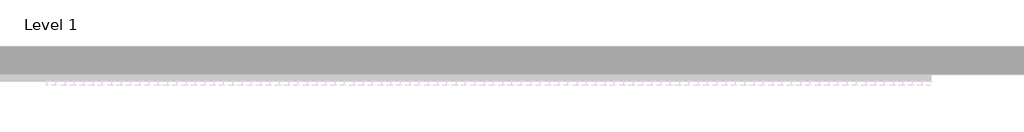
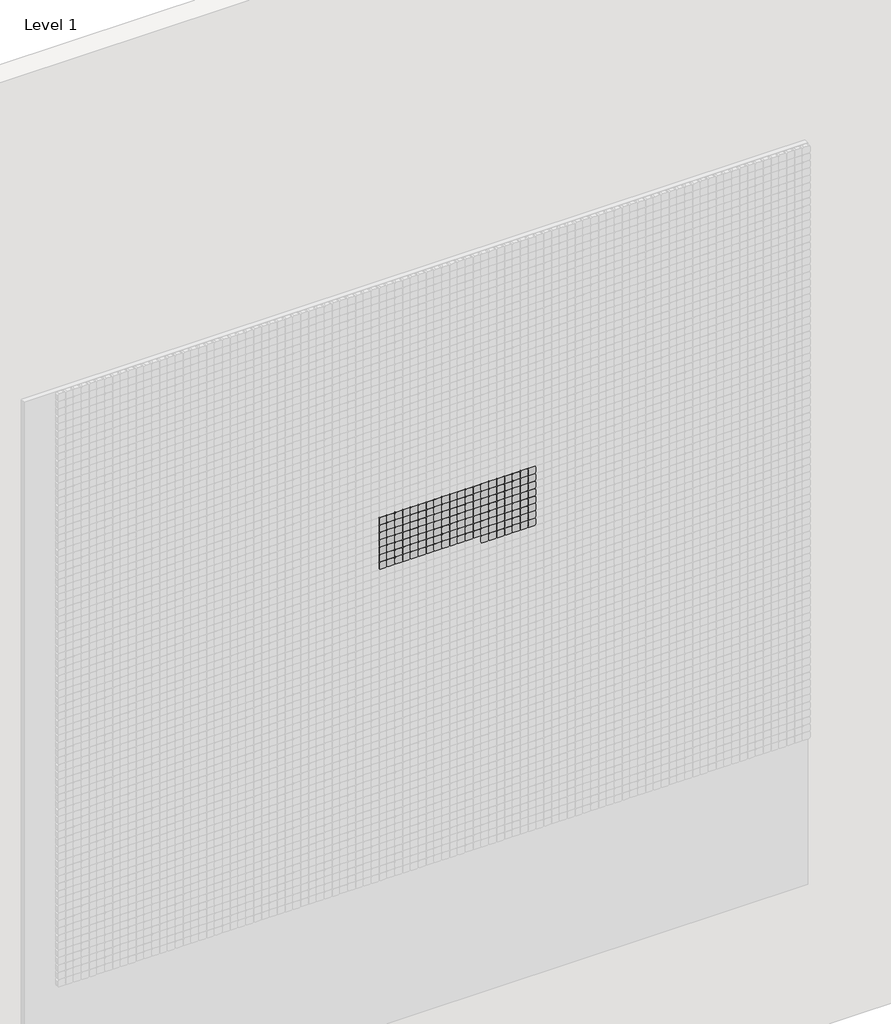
# One storey, part 39 of 71: 147 proxies.
"""IFC4 building model written with IfcOpenShell, lengths in millimetres."""

from ifc_helpers import new_model, si_unit, origin, place, context, project, spatial, transform, mapped, element, save
from components import generic_models_afde289c

model = new_model("IFC4")

# Units and contexts
model_context = context("Model", 3, world=origin())
ifc_project = project(units=[si_unit("LENGTHUNIT", "METRE", prefix="MILLI")], contexts=[model_context])

# Site, building, storey
site = spatial("IfcSite", under=ifc_project)
building = spatial("IfcBuilding", under=site)
storey = spatial("IfcBuildingStorey", under=building, Name="Level 1", Elevation=0.0)

# Proxies
placement = place(None, origin())
generic_models_shape = generic_models_afde289c(model_context)
element("IfcBuildingElementProxy", 1, Name="Pixel_M : Pixel_M", ObjectType="Pixel_M : Pixel_M", at=placement, inside=storey, context=model_context, shape_type="MappedRepresentation", body=[
    mapped(generic_models_shape, transform((7962.4280941, -75.0, 4416.3566215), x_axis=(1.0, 0.0, 0.0), y_axis=(0.0, 0.0, 1.0), z_axis=(0.0, -1.0, 0.0))),
])
element("IfcBuildingElementProxy", 2, Name="Pixel_M : Pixel_M", ObjectType="Pixel_M : Pixel_M", at=placement, inside=storey, context=model_context, shape_type="MappedRepresentation", body=[
    mapped(generic_models_shape, transform((7912.4280941, -75.0, 4416.3566215), x_axis=(1.0, 0.0, 0.0), y_axis=(0.0, 0.0, 1.0), z_axis=(0.0, -1.0, 0.0))),
])
element("IfcBuildingElementProxy", 3, Name="Pixel_M : Pixel_M", ObjectType="Pixel_M : Pixel_M", at=placement, inside=storey, context=model_context, shape_type="MappedRepresentation", body=[
    mapped(generic_models_shape, transform((7862.4280941, -75.0, 4416.3566215), x_axis=(1.0, 0.0, 0.0), y_axis=(0.0, 0.0, 1.0), z_axis=(0.0, -1.0, 0.0))),
])
element("IfcBuildingElementProxy", 4, Name="Pixel_M : Pixel_M", ObjectType="Pixel_M : Pixel_M", at=placement, inside=storey, context=model_context, shape_type="MappedRepresentation", body=[
    mapped(generic_models_shape, transform((7812.4280941, -75.0, 4416.3566215), x_axis=(1.0, 0.0, 0.0), y_axis=(0.0, 0.0, 1.0), z_axis=(0.0, -1.0, 0.0))),
])
element("IfcBuildingElementProxy", 5, Name="Pixel_M : Pixel_M", ObjectType="Pixel_M : Pixel_M", at=placement, inside=storey, context=model_context, shape_type="MappedRepresentation", body=[
    mapped(generic_models_shape, transform((7762.4280941, -75.0, 4416.3566215), x_axis=(1.0, 0.0, 0.0), y_axis=(0.0, 0.0, 1.0), z_axis=(0.0, -1.0, 0.0))),
])
element("IfcBuildingElementProxy", 6, Name="Pixel_M : Pixel_M", ObjectType="Pixel_M : Pixel_M", at=placement, inside=storey, context=model_context, shape_type="MappedRepresentation", body=[
    mapped(generic_models_shape, transform((7712.4280941, -75.0, 4416.3566215), x_axis=(1.0, 0.0, 0.0), y_axis=(0.0, 0.0, 1.0), z_axis=(0.0, -1.0, 0.0))),
])
element("IfcBuildingElementProxy", 7, Name="Pixel_M : Pixel_M", ObjectType="Pixel_M : Pixel_M", at=placement, inside=storey, context=model_context, shape_type="MappedRepresentation", body=[
    mapped(generic_models_shape, transform((7662.4280941, -75.0, 4416.3566215), x_axis=(1.0, 0.0, 0.0), y_axis=(0.0, 0.0, 1.0), z_axis=(0.0, -1.0, 0.0))),
])
element("IfcBuildingElementProxy", 8, Name="Pixel_M : Pixel_M", ObjectType="Pixel_M : Pixel_M", at=placement, inside=storey, context=model_context, shape_type="MappedRepresentation", body=[
    mapped(generic_models_shape, transform((7612.4280941, -75.0, 4416.3566215), x_axis=(1.0, 0.0, 0.0), y_axis=(0.0, 0.0, 1.0), z_axis=(0.0, -1.0, 0.0))),
])
element("IfcBuildingElementProxy", 9, Name="Pixel_M : Pixel_M", ObjectType="Pixel_M : Pixel_M", at=placement, inside=storey, context=model_context, shape_type="MappedRepresentation", body=[
    mapped(generic_models_shape, transform((7562.4280941, -75.0, 4416.3566215), x_axis=(1.0, 0.0, 0.0), y_axis=(0.0, 0.0, 1.0), z_axis=(0.0, -1.0, 0.0))),
])
element("IfcBuildingElementProxy", 10, Name="Pixel_M : Pixel_M", ObjectType="Pixel_M : Pixel_M", at=placement, inside=storey, context=model_context, shape_type="MappedRepresentation", body=[
    mapped(generic_models_shape, transform((7512.4280941, -75.0, 4416.3566215), x_axis=(1.0, 0.0, 0.0), y_axis=(0.0, 0.0, 1.0), z_axis=(0.0, -1.0, 0.0))),
])
element("IfcBuildingElementProxy", 11, Name="Pixel_M : Pixel_M", ObjectType="Pixel_M : Pixel_M", at=placement, inside=storey, context=model_context, shape_type="MappedRepresentation", body=[
    mapped(generic_models_shape, transform((7462.4280941, -75.0, 4416.3566215), x_axis=(1.0, 0.0, 0.0), y_axis=(0.0, 0.0, 1.0), z_axis=(0.0, -1.0, 0.0))),
])
element("IfcBuildingElementProxy", 12, Name="Pixel_M : Pixel_M", ObjectType="Pixel_M : Pixel_M", at=placement, inside=storey, context=model_context, shape_type="MappedRepresentation", body=[
    mapped(generic_models_shape, transform((7412.4280941, -75.0, 4416.3566215), x_axis=(1.0, 0.0, 0.0), y_axis=(0.0, 0.0, 1.0), z_axis=(0.0, -1.0, 0.0))),
])
element("IfcBuildingElementProxy", 13, Name="Pixel_M : Pixel_M", ObjectType="Pixel_M : Pixel_M", at=placement, inside=storey, context=model_context, shape_type="MappedRepresentation", body=[
    mapped(generic_models_shape, transform((7362.4280941, -75.0, 4416.3566215), x_axis=(1.0, 0.0, 0.0), y_axis=(0.0, 0.0, 1.0), z_axis=(0.0, -1.0, 0.0))),
])
element("IfcBuildingElementProxy", 14, Name="Pixel_M : Pixel_M", ObjectType="Pixel_M : Pixel_M", at=placement, inside=storey, context=model_context, shape_type="MappedRepresentation", body=[
    mapped(generic_models_shape, transform((7312.4280941, -75.0, 4416.3566215), x_axis=(1.0, 0.0, 0.0), y_axis=(0.0, 0.0, 1.0), z_axis=(0.0, -1.0, 0.0))),
])
element("IfcBuildingElementProxy", 15, Name="Pixel_M : Pixel_M", ObjectType="Pixel_M : Pixel_M", at=placement, inside=storey, context=model_context, shape_type="MappedRepresentation", body=[
    mapped(generic_models_shape, transform((7262.4280941, -75.0, 4416.3566215), x_axis=(1.0, 0.0, 0.0), y_axis=(0.0, 0.0, 1.0), z_axis=(0.0, -1.0, 0.0))),
])
element("IfcBuildingElementProxy", 16, Name="Pixel_M : Pixel_M", ObjectType="Pixel_M : Pixel_M", at=placement, inside=storey, context=model_context, shape_type="MappedRepresentation", body=[
    mapped(generic_models_shape, transform((7212.4280941, -75.0, 4416.3566215), x_axis=(1.0, 0.0, 0.0), y_axis=(0.0, 0.0, 1.0), z_axis=(0.0, -1.0, 0.0))),
])
element("IfcBuildingElementProxy", 17, Name="Pixel_M : Pixel_M", ObjectType="Pixel_M : Pixel_M", at=placement, inside=storey, context=model_context, shape_type="MappedRepresentation", body=[
    mapped(generic_models_shape, transform((7162.4280941, -75.0, 4416.3566215), x_axis=(1.0, 0.0, 0.0), y_axis=(0.0, 0.0, 1.0), z_axis=(0.0, -1.0, 0.0))),
])
element("IfcBuildingElementProxy", 18, Name="Pixel_M : Pixel_M", ObjectType="Pixel_M : Pixel_M", at=placement, inside=storey, context=model_context, shape_type="MappedRepresentation", body=[
    mapped(generic_models_shape, transform((7112.4280941, -75.0, 4416.3566215), x_axis=(1.0, 0.0, 0.0), y_axis=(0.0, 0.0, 1.0), z_axis=(0.0, -1.0, 0.0))),
])
element("IfcBuildingElementProxy", 19, Name="Pixel_M : Pixel_M", ObjectType="Pixel_M : Pixel_M", at=placement, inside=storey, context=model_context, shape_type="MappedRepresentation", body=[
    mapped(generic_models_shape, transform((7062.4280941, -75.0, 4416.3566215), x_axis=(1.0, 0.0, 0.0), y_axis=(0.0, 0.0, 1.0), z_axis=(0.0, -1.0, 0.0))),
])
element("IfcBuildingElementProxy", 20, Name="Pixel_M : Pixel_M", ObjectType="Pixel_M : Pixel_M", at=placement, inside=storey, context=model_context, shape_type="MappedRepresentation", body=[
    mapped(generic_models_shape, transform((7012.4280941, -75.0, 4416.3566215), x_axis=(1.0, 0.0, 0.0), y_axis=(0.0, 0.0, 1.0), z_axis=(0.0, -1.0, 0.0))),
])
element("IfcBuildingElementProxy", 21, Name="Pixel_M : Pixel_M", ObjectType="Pixel_M : Pixel_M", at=placement, inside=storey, context=model_context, shape_type="MappedRepresentation", body=[
    mapped(generic_models_shape, transform((7962.4280941, -75.0, 4366.3566215), x_axis=(1.0, 0.0, 0.0), y_axis=(0.0, 0.0, 1.0), z_axis=(0.0, -1.0, 0.0))),
])
element("IfcBuildingElementProxy", 22, Name="Pixel_M : Pixel_M", ObjectType="Pixel_M : Pixel_M", at=placement, inside=storey, context=model_context, shape_type="MappedRepresentation", body=[
    mapped(generic_models_shape, transform((7912.4280941, -75.0, 4366.3566215), x_axis=(1.0, 0.0, 0.0), y_axis=(0.0, 0.0, 1.0), z_axis=(0.0, -1.0, 0.0))),
])
element("IfcBuildingElementProxy", 23, Name="Pixel_M : Pixel_M", ObjectType="Pixel_M : Pixel_M", at=placement, inside=storey, context=model_context, shape_type="MappedRepresentation", body=[
    mapped(generic_models_shape, transform((7862.4280941, -75.0, 4366.3566215), x_axis=(1.0, 0.0, 0.0), y_axis=(0.0, 0.0, 1.0), z_axis=(0.0, -1.0, 0.0))),
])
element("IfcBuildingElementProxy", 24, Name="Pixel_M : Pixel_M", ObjectType="Pixel_M : Pixel_M", at=placement, inside=storey, context=model_context, shape_type="MappedRepresentation", body=[
    mapped(generic_models_shape, transform((7812.4280941, -75.0, 4366.3566215), x_axis=(1.0, 0.0, 0.0), y_axis=(0.0, 0.0, 1.0), z_axis=(0.0, -1.0, 0.0))),
])
element("IfcBuildingElementProxy", 25, Name="Pixel_M : Pixel_M", ObjectType="Pixel_M : Pixel_M", at=placement, inside=storey, context=model_context, shape_type="MappedRepresentation", body=[
    mapped(generic_models_shape, transform((7762.4280941, -75.0, 4366.3566215), x_axis=(1.0, 0.0, 0.0), y_axis=(0.0, 0.0, 1.0), z_axis=(0.0, -1.0, 0.0))),
])
element("IfcBuildingElementProxy", 26, Name="Pixel_M : Pixel_M", ObjectType="Pixel_M : Pixel_M", at=placement, inside=storey, context=model_context, shape_type="MappedRepresentation", body=[
    mapped(generic_models_shape, transform((7712.4280941, -75.0, 4366.3566215), x_axis=(1.0, 0.0, 0.0), y_axis=(0.0, 0.0, 1.0), z_axis=(0.0, -1.0, 0.0))),
])
element("IfcBuildingElementProxy", 27, Name="Pixel_M : Pixel_M", ObjectType="Pixel_M : Pixel_M", at=placement, inside=storey, context=model_context, shape_type="MappedRepresentation", body=[
    mapped(generic_models_shape, transform((7662.4280941, -75.0, 4366.3566215), x_axis=(1.0, 0.0, 0.0), y_axis=(0.0, 0.0, 1.0), z_axis=(0.0, -1.0, 0.0))),
])
element("IfcBuildingElementProxy", 28, Name="Pixel_M : Pixel_M", ObjectType="Pixel_M : Pixel_M", at=placement, inside=storey, context=model_context, shape_type="MappedRepresentation", body=[
    mapped(generic_models_shape, transform((7612.4280941, -75.0, 4366.3566215), x_axis=(1.0, 0.0, 0.0), y_axis=(0.0, 0.0, 1.0), z_axis=(0.0, -1.0, 0.0))),
])
element("IfcBuildingElementProxy", 29, Name="Pixel_M : Pixel_M", ObjectType="Pixel_M : Pixel_M", at=placement, inside=storey, context=model_context, shape_type="MappedRepresentation", body=[
    mapped(generic_models_shape, transform((7562.4280941, -75.0, 4366.3566215), x_axis=(1.0, 0.0, 0.0), y_axis=(0.0, 0.0, 1.0), z_axis=(0.0, -1.0, 0.0))),
])
element("IfcBuildingElementProxy", 30, Name="Pixel_M : Pixel_M", ObjectType="Pixel_M : Pixel_M", at=placement, inside=storey, context=model_context, shape_type="MappedRepresentation", body=[
    mapped(generic_models_shape, transform((7512.4280941, -75.0, 4366.3566215), x_axis=(1.0, 0.0, 0.0), y_axis=(0.0, 0.0, 1.0), z_axis=(0.0, -1.0, 0.0))),
])
element("IfcBuildingElementProxy", 31, Name="Pixel_M : Pixel_M", ObjectType="Pixel_M : Pixel_M", at=placement, inside=storey, context=model_context, shape_type="MappedRepresentation", body=[
    mapped(generic_models_shape, transform((7462.4280941, -75.0, 4366.3566215), x_axis=(1.0, 0.0, 0.0), y_axis=(0.0, 0.0, 1.0), z_axis=(0.0, -1.0, 0.0))),
])
element("IfcBuildingElementProxy", 32, Name="Pixel_M : Pixel_M", ObjectType="Pixel_M : Pixel_M", at=placement, inside=storey, context=model_context, shape_type="MappedRepresentation", body=[
    mapped(generic_models_shape, transform((7412.4280941, -75.0, 4366.3566215), x_axis=(1.0, 0.0, 0.0), y_axis=(0.0, 0.0, 1.0), z_axis=(0.0, -1.0, 0.0))),
])
element("IfcBuildingElementProxy", 33, Name="Pixel_M : Pixel_M", ObjectType="Pixel_M : Pixel_M", at=placement, inside=storey, context=model_context, shape_type="MappedRepresentation", body=[
    mapped(generic_models_shape, transform((7362.4280941, -75.0, 4366.3566215), x_axis=(1.0, 0.0, 0.0), y_axis=(0.0, 0.0, 1.0), z_axis=(0.0, -1.0, 0.0))),
])
element("IfcBuildingElementProxy", 34, Name="Pixel_M : Pixel_M", ObjectType="Pixel_M : Pixel_M", at=placement, inside=storey, context=model_context, shape_type="MappedRepresentation", body=[
    mapped(generic_models_shape, transform((7312.4280941, -75.0, 4366.3566215), x_axis=(1.0, 0.0, 0.0), y_axis=(0.0, 0.0, 1.0), z_axis=(0.0, -1.0, 0.0))),
])
element("IfcBuildingElementProxy", 35, Name="Pixel_M : Pixel_M", ObjectType="Pixel_M : Pixel_M", at=placement, inside=storey, context=model_context, shape_type="MappedRepresentation", body=[
    mapped(generic_models_shape, transform((7262.4280941, -75.0, 4366.3566215), x_axis=(1.0, 0.0, 0.0), y_axis=(0.0, 0.0, 1.0), z_axis=(0.0, -1.0, 0.0))),
])
element("IfcBuildingElementProxy", 36, Name="Pixel_M : Pixel_M", ObjectType="Pixel_M : Pixel_M", at=placement, inside=storey, context=model_context, shape_type="MappedRepresentation", body=[
    mapped(generic_models_shape, transform((7212.4280941, -75.0, 4366.3566215), x_axis=(1.0, 0.0, 0.0), y_axis=(0.0, 0.0, 1.0), z_axis=(0.0, -1.0, 0.0))),
])
element("IfcBuildingElementProxy", 37, Name="Pixel_M : Pixel_M", ObjectType="Pixel_M : Pixel_M", at=placement, inside=storey, context=model_context, shape_type="MappedRepresentation", body=[
    mapped(generic_models_shape, transform((7162.4280941, -75.0, 4366.3566215), x_axis=(1.0, 0.0, 0.0), y_axis=(0.0, 0.0, 1.0), z_axis=(0.0, -1.0, 0.0))),
])
element("IfcBuildingElementProxy", 38, Name="Pixel_M : Pixel_M", ObjectType="Pixel_M : Pixel_M", at=placement, inside=storey, context=model_context, shape_type="MappedRepresentation", body=[
    mapped(generic_models_shape, transform((7112.4280941, -75.0, 4366.3566215), x_axis=(1.0, 0.0, 0.0), y_axis=(0.0, 0.0, 1.0), z_axis=(0.0, -1.0, 0.0))),
])
element("IfcBuildingElementProxy", 39, Name="Pixel_M : Pixel_M", ObjectType="Pixel_M : Pixel_M", at=placement, inside=storey, context=model_context, shape_type="MappedRepresentation", body=[
    mapped(generic_models_shape, transform((7062.4280941, -75.0, 4366.3566215), x_axis=(1.0, 0.0, 0.0), y_axis=(0.0, 0.0, 1.0), z_axis=(0.0, -1.0, 0.0))),
])
element("IfcBuildingElementProxy", 40, Name="Pixel_M : Pixel_M", ObjectType="Pixel_M : Pixel_M", at=placement, inside=storey, context=model_context, shape_type="MappedRepresentation", body=[
    mapped(generic_models_shape, transform((7012.4280941, -75.0, 4366.3566215), x_axis=(1.0, 0.0, 0.0), y_axis=(0.0, 0.0, 1.0), z_axis=(0.0, -1.0, 0.0))),
])
element("IfcBuildingElementProxy", 41, Name="Pixel_M : Pixel_M", ObjectType="Pixel_M : Pixel_M", at=placement, inside=storey, context=model_context, shape_type="MappedRepresentation", body=[
    mapped(generic_models_shape, transform((7962.4280941, -75.0, 4316.3566215), x_axis=(1.0, 0.0, 0.0), y_axis=(0.0, 0.0, 1.0), z_axis=(0.0, -1.0, 0.0))),
])
element("IfcBuildingElementProxy", 42, Name="Pixel_M : Pixel_M", ObjectType="Pixel_M : Pixel_M", at=placement, inside=storey, context=model_context, shape_type="MappedRepresentation", body=[
    mapped(generic_models_shape, transform((7912.4280941, -75.0, 4316.3566215), x_axis=(1.0, 0.0, 0.0), y_axis=(0.0, 0.0, 1.0), z_axis=(0.0, -1.0, 0.0))),
])
element("IfcBuildingElementProxy", 43, Name="Pixel_M : Pixel_M", ObjectType="Pixel_M : Pixel_M", at=placement, inside=storey, context=model_context, shape_type="MappedRepresentation", body=[
    mapped(generic_models_shape, transform((7862.4280941, -75.0, 4316.3566215), x_axis=(1.0, 0.0, 0.0), y_axis=(0.0, 0.0, 1.0), z_axis=(0.0, -1.0, 0.0))),
])
element("IfcBuildingElementProxy", 44, Name="Pixel_M : Pixel_M", ObjectType="Pixel_M : Pixel_M", at=placement, inside=storey, context=model_context, shape_type="MappedRepresentation", body=[
    mapped(generic_models_shape, transform((7812.4280941, -75.0, 4316.3566215), x_axis=(1.0, 0.0, 0.0), y_axis=(0.0, 0.0, 1.0), z_axis=(0.0, -1.0, 0.0))),
])
element("IfcBuildingElementProxy", 45, Name="Pixel_M : Pixel_M", ObjectType="Pixel_M : Pixel_M", at=placement, inside=storey, context=model_context, shape_type="MappedRepresentation", body=[
    mapped(generic_models_shape, transform((7762.4280941, -75.0, 4316.3566215), x_axis=(1.0, 0.0, 0.0), y_axis=(0.0, 0.0, 1.0), z_axis=(0.0, -1.0, 0.0))),
])
element("IfcBuildingElementProxy", 46, Name="Pixel_M : Pixel_M", ObjectType="Pixel_M : Pixel_M", at=placement, inside=storey, context=model_context, shape_type="MappedRepresentation", body=[
    mapped(generic_models_shape, transform((7712.4280941, -75.0, 4316.3566215), x_axis=(1.0, 0.0, 0.0), y_axis=(0.0, 0.0, 1.0), z_axis=(0.0, -1.0, 0.0))),
])
element("IfcBuildingElementProxy", 47, Name="Pixel_M : Pixel_M", ObjectType="Pixel_M : Pixel_M", at=placement, inside=storey, context=model_context, shape_type="MappedRepresentation", body=[
    mapped(generic_models_shape, transform((7662.4280941, -75.0, 4316.3566215), x_axis=(1.0, 0.0, 0.0), y_axis=(0.0, 0.0, 1.0), z_axis=(0.0, -1.0, 0.0))),
])
element("IfcBuildingElementProxy", 48, Name="Pixel_M : Pixel_M", ObjectType="Pixel_M : Pixel_M", at=placement, inside=storey, context=model_context, shape_type="MappedRepresentation", body=[
    mapped(generic_models_shape, transform((7612.4280941, -75.0, 4316.3566215), x_axis=(1.0, 0.0, 0.0), y_axis=(0.0, 0.0, 1.0), z_axis=(0.0, -1.0, 0.0))),
])
element("IfcBuildingElementProxy", 49, Name="Pixel_M : Pixel_M", ObjectType="Pixel_M : Pixel_M", at=placement, inside=storey, context=model_context, shape_type="MappedRepresentation", body=[
    mapped(generic_models_shape, transform((7562.4280941, -75.0, 4316.3566215), x_axis=(1.0, 0.0, 0.0), y_axis=(0.0, 0.0, 1.0), z_axis=(0.0, -1.0, 0.0))),
])
element("IfcBuildingElementProxy", 50, Name="Pixel_M : Pixel_M", ObjectType="Pixel_M : Pixel_M", at=placement, inside=storey, context=model_context, shape_type="MappedRepresentation", body=[
    mapped(generic_models_shape, transform((7512.4280941, -75.0, 4316.3566215), x_axis=(1.0, 0.0, 0.0), y_axis=(0.0, 0.0, 1.0), z_axis=(0.0, -1.0, 0.0))),
])
element("IfcBuildingElementProxy", 51, Name="Pixel_M : Pixel_M", ObjectType="Pixel_M : Pixel_M", at=placement, inside=storey, context=model_context, shape_type="MappedRepresentation", body=[
    mapped(generic_models_shape, transform((7462.4280941, -75.0, 4316.3566215), x_axis=(1.0, 0.0, 0.0), y_axis=(0.0, 0.0, 1.0), z_axis=(0.0, -1.0, 0.0))),
])
element("IfcBuildingElementProxy", 52, Name="Pixel_M : Pixel_M", ObjectType="Pixel_M : Pixel_M", at=placement, inside=storey, context=model_context, shape_type="MappedRepresentation", body=[
    mapped(generic_models_shape, transform((7412.4280941, -75.0, 4316.3566215), x_axis=(1.0, 0.0, 0.0), y_axis=(0.0, 0.0, 1.0), z_axis=(0.0, -1.0, 0.0))),
])
element("IfcBuildingElementProxy", 53, Name="Pixel_M : Pixel_M", ObjectType="Pixel_M : Pixel_M", at=placement, inside=storey, context=model_context, shape_type="MappedRepresentation", body=[
    mapped(generic_models_shape, transform((7362.4280941, -75.0, 4316.3566215), x_axis=(1.0, 0.0, 0.0), y_axis=(0.0, 0.0, 1.0), z_axis=(0.0, -1.0, 0.0))),
])
element("IfcBuildingElementProxy", 54, Name="Pixel_M : Pixel_M", ObjectType="Pixel_M : Pixel_M", at=placement, inside=storey, context=model_context, shape_type="MappedRepresentation", body=[
    mapped(generic_models_shape, transform((7312.4280941, -75.0, 4316.3566215), x_axis=(1.0, 0.0, 0.0), y_axis=(0.0, 0.0, 1.0), z_axis=(0.0, -1.0, 0.0))),
])
element("IfcBuildingElementProxy", 55, Name="Pixel_M : Pixel_M", ObjectType="Pixel_M : Pixel_M", at=placement, inside=storey, context=model_context, shape_type="MappedRepresentation", body=[
    mapped(generic_models_shape, transform((7262.4280941, -75.0, 4316.3566215), x_axis=(1.0, 0.0, 0.0), y_axis=(0.0, 0.0, 1.0), z_axis=(0.0, -1.0, 0.0))),
])
element("IfcBuildingElementProxy", 56, Name="Pixel_M : Pixel_M", ObjectType="Pixel_M : Pixel_M", at=placement, inside=storey, context=model_context, shape_type="MappedRepresentation", body=[
    mapped(generic_models_shape, transform((7212.4280941, -75.0, 4316.3566215), x_axis=(1.0, 0.0, 0.0), y_axis=(0.0, 0.0, 1.0), z_axis=(0.0, -1.0, 0.0))),
])
element("IfcBuildingElementProxy", 57, Name="Pixel_M : Pixel_M", ObjectType="Pixel_M : Pixel_M", at=placement, inside=storey, context=model_context, shape_type="MappedRepresentation", body=[
    mapped(generic_models_shape, transform((7162.4280941, -75.0, 4316.3566215), x_axis=(1.0, 0.0, 0.0), y_axis=(0.0, 0.0, 1.0), z_axis=(0.0, -1.0, 0.0))),
])
element("IfcBuildingElementProxy", 58, Name="Pixel_M : Pixel_M", ObjectType="Pixel_M : Pixel_M", at=placement, inside=storey, context=model_context, shape_type="MappedRepresentation", body=[
    mapped(generic_models_shape, transform((7112.4280941, -75.0, 4316.3566215), x_axis=(1.0, 0.0, 0.0), y_axis=(0.0, 0.0, 1.0), z_axis=(0.0, -1.0, 0.0))),
])
element("IfcBuildingElementProxy", 59, Name="Pixel_M : Pixel_M", ObjectType="Pixel_M : Pixel_M", at=placement, inside=storey, context=model_context, shape_type="MappedRepresentation", body=[
    mapped(generic_models_shape, transform((7062.4280941, -75.0, 4316.3566215), x_axis=(1.0, 0.0, 0.0), y_axis=(0.0, 0.0, 1.0), z_axis=(0.0, -1.0, 0.0))),
])
element("IfcBuildingElementProxy", 60, Name="Pixel_M : Pixel_M", ObjectType="Pixel_M : Pixel_M", at=placement, inside=storey, context=model_context, shape_type="MappedRepresentation", body=[
    mapped(generic_models_shape, transform((7012.4280941, -75.0, 4316.3566215), x_axis=(1.0, 0.0, 0.0), y_axis=(0.0, 0.0, 1.0), z_axis=(0.0, -1.0, 0.0))),
])
element("IfcBuildingElementProxy", 61, Name="Pixel_M : Pixel_M", ObjectType="Pixel_M : Pixel_M", at=placement, inside=storey, context=model_context, shape_type="MappedRepresentation", body=[
    mapped(generic_models_shape, transform((7962.4280941, -75.0, 4266.3566215), x_axis=(1.0, 0.0, 0.0), y_axis=(0.0, 0.0, 1.0), z_axis=(0.0, -1.0, 0.0))),
])
element("IfcBuildingElementProxy", 62, Name="Pixel_M : Pixel_M", ObjectType="Pixel_M : Pixel_M", at=placement, inside=storey, context=model_context, shape_type="MappedRepresentation", body=[
    mapped(generic_models_shape, transform((7912.4280941, -75.0, 4266.3566215), x_axis=(1.0, 0.0, 0.0), y_axis=(0.0, 0.0, 1.0), z_axis=(0.0, -1.0, 0.0))),
])
element("IfcBuildingElementProxy", 63, Name="Pixel_M : Pixel_M", ObjectType="Pixel_M : Pixel_M", at=placement, inside=storey, context=model_context, shape_type="MappedRepresentation", body=[
    mapped(generic_models_shape, transform((7862.4280941, -75.0, 4266.3566215), x_axis=(1.0, 0.0, 0.0), y_axis=(0.0, 0.0, 1.0), z_axis=(0.0, -1.0, 0.0))),
])
element("IfcBuildingElementProxy", 64, Name="Pixel_M : Pixel_M", ObjectType="Pixel_M : Pixel_M", at=placement, inside=storey, context=model_context, shape_type="MappedRepresentation", body=[
    mapped(generic_models_shape, transform((7812.4280941, -75.0, 4266.3566215), x_axis=(1.0, 0.0, 0.0), y_axis=(0.0, 0.0, 1.0), z_axis=(0.0, -1.0, 0.0))),
])
element("IfcBuildingElementProxy", 65, Name="Pixel_M : Pixel_M", ObjectType="Pixel_M : Pixel_M", at=placement, inside=storey, context=model_context, shape_type="MappedRepresentation", body=[
    mapped(generic_models_shape, transform((7762.4280941, -75.0, 4266.3566215), x_axis=(1.0, 0.0, 0.0), y_axis=(0.0, 0.0, 1.0), z_axis=(0.0, -1.0, 0.0))),
])
element("IfcBuildingElementProxy", 66, Name="Pixel_M : Pixel_M", ObjectType="Pixel_M : Pixel_M", at=placement, inside=storey, context=model_context, shape_type="MappedRepresentation", body=[
    mapped(generic_models_shape, transform((7712.4280941, -75.0, 4266.3566215), x_axis=(1.0, 0.0, 0.0), y_axis=(0.0, 0.0, 1.0), z_axis=(0.0, -1.0, 0.0))),
])
element("IfcBuildingElementProxy", 67, Name="Pixel_M : Pixel_M", ObjectType="Pixel_M : Pixel_M", at=placement, inside=storey, context=model_context, shape_type="MappedRepresentation", body=[
    mapped(generic_models_shape, transform((7662.4280941, -75.0, 4266.3566215), x_axis=(1.0, 0.0, 0.0), y_axis=(0.0, 0.0, 1.0), z_axis=(0.0, -1.0, 0.0))),
])
element("IfcBuildingElementProxy", 68, Name="Pixel_M : Pixel_M", ObjectType="Pixel_M : Pixel_M", at=placement, inside=storey, context=model_context, shape_type="MappedRepresentation", body=[
    mapped(generic_models_shape, transform((7612.4280941, -75.0, 4266.3566215), x_axis=(1.0, 0.0, 0.0), y_axis=(0.0, 0.0, 1.0), z_axis=(0.0, -1.0, 0.0))),
])
element("IfcBuildingElementProxy", 69, Name="Pixel_M : Pixel_M", ObjectType="Pixel_M : Pixel_M", at=placement, inside=storey, context=model_context, shape_type="MappedRepresentation", body=[
    mapped(generic_models_shape, transform((7562.4280941, -75.0, 4266.3566215), x_axis=(1.0, 0.0, 0.0), y_axis=(0.0, 0.0, 1.0), z_axis=(0.0, -1.0, 0.0))),
])
element("IfcBuildingElementProxy", 70, Name="Pixel_M : Pixel_M", ObjectType="Pixel_M : Pixel_M", at=placement, inside=storey, context=model_context, shape_type="MappedRepresentation", body=[
    mapped(generic_models_shape, transform((7512.4280941, -75.0, 4266.3566215), x_axis=(1.0, 0.0, 0.0), y_axis=(0.0, 0.0, 1.0), z_axis=(0.0, -1.0, 0.0))),
])
element("IfcBuildingElementProxy", 71, Name="Pixel_M : Pixel_M", ObjectType="Pixel_M : Pixel_M", at=placement, inside=storey, context=model_context, shape_type="MappedRepresentation", body=[
    mapped(generic_models_shape, transform((7462.4280941, -75.0, 4266.3566215), x_axis=(1.0, 0.0, 0.0), y_axis=(0.0, 0.0, 1.0), z_axis=(0.0, -1.0, 0.0))),
])
element("IfcBuildingElementProxy", 72, Name="Pixel_M : Pixel_M", ObjectType="Pixel_M : Pixel_M", at=placement, inside=storey, context=model_context, shape_type="MappedRepresentation", body=[
    mapped(generic_models_shape, transform((7412.4280941, -75.0, 4266.3566215), x_axis=(1.0, 0.0, 0.0), y_axis=(0.0, 0.0, 1.0), z_axis=(0.0, -1.0, 0.0))),
])
element("IfcBuildingElementProxy", 73, Name="Pixel_M : Pixel_M", ObjectType="Pixel_M : Pixel_M", at=placement, inside=storey, context=model_context, shape_type="MappedRepresentation", body=[
    mapped(generic_models_shape, transform((7362.4280941, -75.0, 4266.3566215), x_axis=(1.0, 0.0, 0.0), y_axis=(0.0, 0.0, 1.0), z_axis=(0.0, -1.0, 0.0))),
])
element("IfcBuildingElementProxy", 74, Name="Pixel_M : Pixel_M", ObjectType="Pixel_M : Pixel_M", at=placement, inside=storey, context=model_context, shape_type="MappedRepresentation", body=[
    mapped(generic_models_shape, transform((7312.4280941, -75.0, 4266.3566215), x_axis=(1.0, 0.0, 0.0), y_axis=(0.0, 0.0, 1.0), z_axis=(0.0, -1.0, 0.0))),
])
element("IfcBuildingElementProxy", 75, Name="Pixel_M : Pixel_M", ObjectType="Pixel_M : Pixel_M", at=placement, inside=storey, context=model_context, shape_type="MappedRepresentation", body=[
    mapped(generic_models_shape, transform((7262.4280941, -75.0, 4266.3566215), x_axis=(1.0, 0.0, 0.0), y_axis=(0.0, 0.0, 1.0), z_axis=(0.0, -1.0, 0.0))),
])
element("IfcBuildingElementProxy", 76, Name="Pixel_M : Pixel_M", ObjectType="Pixel_M : Pixel_M", at=placement, inside=storey, context=model_context, shape_type="MappedRepresentation", body=[
    mapped(generic_models_shape, transform((7212.4280941, -75.0, 4266.3566215), x_axis=(1.0, 0.0, 0.0), y_axis=(0.0, 0.0, 1.0), z_axis=(0.0, -1.0, 0.0))),
])
element("IfcBuildingElementProxy", 77, Name="Pixel_M : Pixel_M", ObjectType="Pixel_M : Pixel_M", at=placement, inside=storey, context=model_context, shape_type="MappedRepresentation", body=[
    mapped(generic_models_shape, transform((7162.4280941, -75.0, 4266.3566215), x_axis=(1.0, 0.0, 0.0), y_axis=(0.0, 0.0, 1.0), z_axis=(0.0, -1.0, 0.0))),
])
element("IfcBuildingElementProxy", 78, Name="Pixel_M : Pixel_M", ObjectType="Pixel_M : Pixel_M", at=placement, inside=storey, context=model_context, shape_type="MappedRepresentation", body=[
    mapped(generic_models_shape, transform((7112.4280941, -75.0, 4266.3566215), x_axis=(1.0, 0.0, 0.0), y_axis=(0.0, 0.0, 1.0), z_axis=(0.0, -1.0, 0.0))),
])
element("IfcBuildingElementProxy", 79, Name="Pixel_M : Pixel_M", ObjectType="Pixel_M : Pixel_M", at=placement, inside=storey, context=model_context, shape_type="MappedRepresentation", body=[
    mapped(generic_models_shape, transform((7062.4280941, -75.0, 4266.3566215), x_axis=(1.0, 0.0, 0.0), y_axis=(0.0, 0.0, 1.0), z_axis=(0.0, -1.0, 0.0))),
])
element("IfcBuildingElementProxy", 80, Name="Pixel_M : Pixel_M", ObjectType="Pixel_M : Pixel_M", at=placement, inside=storey, context=model_context, shape_type="MappedRepresentation", body=[
    mapped(generic_models_shape, transform((7012.4280941, -75.0, 4266.3566215), x_axis=(1.0, 0.0, 0.0), y_axis=(0.0, 0.0, 1.0), z_axis=(0.0, -1.0, 0.0))),
])
element("IfcBuildingElementProxy", 81, Name="Pixel_M : Pixel_M", ObjectType="Pixel_M : Pixel_M", at=placement, inside=storey, context=model_context, shape_type="MappedRepresentation", body=[
    mapped(generic_models_shape, transform((7962.4280941, -75.0, 4216.3566215), x_axis=(1.0, 0.0, 0.0), y_axis=(0.0, 0.0, 1.0), z_axis=(0.0, -1.0, 0.0))),
])
element("IfcBuildingElementProxy", 82, Name="Pixel_M : Pixel_M", ObjectType="Pixel_M : Pixel_M", at=placement, inside=storey, context=model_context, shape_type="MappedRepresentation", body=[
    mapped(generic_models_shape, transform((7912.4280941, -75.0, 4216.3566215), x_axis=(1.0, 0.0, 0.0), y_axis=(0.0, 0.0, 1.0), z_axis=(0.0, -1.0, 0.0))),
])
element("IfcBuildingElementProxy", 83, Name="Pixel_M : Pixel_M", ObjectType="Pixel_M : Pixel_M", at=placement, inside=storey, context=model_context, shape_type="MappedRepresentation", body=[
    mapped(generic_models_shape, transform((7862.4280941, -75.0, 4216.3566215), x_axis=(1.0, 0.0, 0.0), y_axis=(0.0, 0.0, 1.0), z_axis=(0.0, -1.0, 0.0))),
])
element("IfcBuildingElementProxy", 84, Name="Pixel_M : Pixel_M", ObjectType="Pixel_M : Pixel_M", at=placement, inside=storey, context=model_context, shape_type="MappedRepresentation", body=[
    mapped(generic_models_shape, transform((7812.4280941, -75.0, 4216.3566215), x_axis=(1.0, 0.0, 0.0), y_axis=(0.0, 0.0, 1.0), z_axis=(0.0, -1.0, 0.0))),
])
element("IfcBuildingElementProxy", 85, Name="Pixel_M : Pixel_M", ObjectType="Pixel_M : Pixel_M", at=placement, inside=storey, context=model_context, shape_type="MappedRepresentation", body=[
    mapped(generic_models_shape, transform((7762.4280941, -75.0, 4216.3566215), x_axis=(1.0, 0.0, 0.0), y_axis=(0.0, 0.0, 1.0), z_axis=(0.0, -1.0, 0.0))),
])
element("IfcBuildingElementProxy", 86, Name="Pixel_M : Pixel_M", ObjectType="Pixel_M : Pixel_M", at=placement, inside=storey, context=model_context, shape_type="MappedRepresentation", body=[
    mapped(generic_models_shape, transform((7712.4280941, -75.0, 4216.3566215), x_axis=(1.0, 0.0, 0.0), y_axis=(0.0, 0.0, 1.0), z_axis=(0.0, -1.0, 0.0))),
])
element("IfcBuildingElementProxy", 87, Name="Pixel_M : Pixel_M", ObjectType="Pixel_M : Pixel_M", at=placement, inside=storey, context=model_context, shape_type="MappedRepresentation", body=[
    mapped(generic_models_shape, transform((7662.4280941, -75.0, 4216.3566215), x_axis=(1.0, 0.0, 0.0), y_axis=(0.0, 0.0, 1.0), z_axis=(0.0, -1.0, 0.0))),
])
element("IfcBuildingElementProxy", 88, Name="Pixel_M : Pixel_M", ObjectType="Pixel_M : Pixel_M", at=placement, inside=storey, context=model_context, shape_type="MappedRepresentation", body=[
    mapped(generic_models_shape, transform((7612.4280941, -75.0, 4216.3566215), x_axis=(1.0, 0.0, 0.0), y_axis=(0.0, 0.0, 1.0), z_axis=(0.0, -1.0, 0.0))),
])
element("IfcBuildingElementProxy", 89, Name="Pixel_M : Pixel_M", ObjectType="Pixel_M : Pixel_M", at=placement, inside=storey, context=model_context, shape_type="MappedRepresentation", body=[
    mapped(generic_models_shape, transform((7562.4280941, -75.0, 4216.3566215), x_axis=(1.0, 0.0, 0.0), y_axis=(0.0, 0.0, 1.0), z_axis=(0.0, -1.0, 0.0))),
])
element("IfcBuildingElementProxy", 90, Name="Pixel_M : Pixel_M", ObjectType="Pixel_M : Pixel_M", at=placement, inside=storey, context=model_context, shape_type="MappedRepresentation", body=[
    mapped(generic_models_shape, transform((7512.4280941, -75.0, 4216.3566215), x_axis=(1.0, 0.0, 0.0), y_axis=(0.0, 0.0, 1.0), z_axis=(0.0, -1.0, 0.0))),
])
element("IfcBuildingElementProxy", 91, Name="Pixel_M : Pixel_M", ObjectType="Pixel_M : Pixel_M", at=placement, inside=storey, context=model_context, shape_type="MappedRepresentation", body=[
    mapped(generic_models_shape, transform((7462.4280941, -75.0, 4216.3566215), x_axis=(1.0, 0.0, 0.0), y_axis=(0.0, 0.0, 1.0), z_axis=(0.0, -1.0, 0.0))),
])
element("IfcBuildingElementProxy", 92, Name="Pixel_M : Pixel_M", ObjectType="Pixel_M : Pixel_M", at=placement, inside=storey, context=model_context, shape_type="MappedRepresentation", body=[
    mapped(generic_models_shape, transform((7412.4280941, -75.0, 4216.3566215), x_axis=(1.0, 0.0, 0.0), y_axis=(0.0, 0.0, 1.0), z_axis=(0.0, -1.0, 0.0))),
])
element("IfcBuildingElementProxy", 93, Name="Pixel_M : Pixel_M", ObjectType="Pixel_M : Pixel_M", at=placement, inside=storey, context=model_context, shape_type="MappedRepresentation", body=[
    mapped(generic_models_shape, transform((7362.4280941, -75.0, 4216.3566215), x_axis=(1.0, 0.0, 0.0), y_axis=(0.0, 0.0, 1.0), z_axis=(0.0, -1.0, 0.0))),
])
element("IfcBuildingElementProxy", 94, Name="Pixel_M : Pixel_M", ObjectType="Pixel_M : Pixel_M", at=placement, inside=storey, context=model_context, shape_type="MappedRepresentation", body=[
    mapped(generic_models_shape, transform((7312.4280941, -75.0, 4216.3566215), x_axis=(1.0, 0.0, 0.0), y_axis=(0.0, 0.0, 1.0), z_axis=(0.0, -1.0, 0.0))),
])
element("IfcBuildingElementProxy", 95, Name="Pixel_M : Pixel_M", ObjectType="Pixel_M : Pixel_M", at=placement, inside=storey, context=model_context, shape_type="MappedRepresentation", body=[
    mapped(generic_models_shape, transform((7262.4280941, -75.0, 4216.3566215), x_axis=(1.0, 0.0, 0.0), y_axis=(0.0, 0.0, 1.0), z_axis=(0.0, -1.0, 0.0))),
])
element("IfcBuildingElementProxy", 96, Name="Pixel_M : Pixel_M", ObjectType="Pixel_M : Pixel_M", at=placement, inside=storey, context=model_context, shape_type="MappedRepresentation", body=[
    mapped(generic_models_shape, transform((7212.4280941, -75.0, 4216.3566215), x_axis=(1.0, 0.0, 0.0), y_axis=(0.0, 0.0, 1.0), z_axis=(0.0, -1.0, 0.0))),
])
element("IfcBuildingElementProxy", 97, Name="Pixel_M : Pixel_M", ObjectType="Pixel_M : Pixel_M", at=placement, inside=storey, context=model_context, shape_type="MappedRepresentation", body=[
    mapped(generic_models_shape, transform((7162.4280941, -75.0, 4216.3566215), x_axis=(1.0, 0.0, 0.0), y_axis=(0.0, 0.0, 1.0), z_axis=(0.0, -1.0, 0.0))),
])
element("IfcBuildingElementProxy", 98, Name="Pixel_M : Pixel_M", ObjectType="Pixel_M : Pixel_M", at=placement, inside=storey, context=model_context, shape_type="MappedRepresentation", body=[
    mapped(generic_models_shape, transform((7112.4280941, -75.0, 4216.3566215), x_axis=(1.0, 0.0, 0.0), y_axis=(0.0, 0.0, 1.0), z_axis=(0.0, -1.0, 0.0))),
])
element("IfcBuildingElementProxy", 99, Name="Pixel_M : Pixel_M", ObjectType="Pixel_M : Pixel_M", at=placement, inside=storey, context=model_context, shape_type="MappedRepresentation", body=[
    mapped(generic_models_shape, transform((7062.4280941, -75.0, 4216.3566215), x_axis=(1.0, 0.0, 0.0), y_axis=(0.0, 0.0, 1.0), z_axis=(0.0, -1.0, 0.0))),
])
element("IfcBuildingElementProxy", 100, Name="Pixel_M : Pixel_M", ObjectType="Pixel_M : Pixel_M", at=placement, inside=storey, context=model_context, shape_type="MappedRepresentation", body=[
    mapped(generic_models_shape, transform((7012.4280941, -75.0, 4216.3566215), x_axis=(1.0, 0.0, 0.0), y_axis=(0.0, 0.0, 1.0), z_axis=(0.0, -1.0, 0.0))),
])
element("IfcBuildingElementProxy", 101, Name="Pixel_M : Pixel_M", ObjectType="Pixel_M : Pixel_M", at=placement, inside=storey, context=model_context, shape_type="MappedRepresentation", body=[
    mapped(generic_models_shape, transform((7962.4280941, -75.0, 4166.3566215), x_axis=(1.0, 0.0, 0.0), y_axis=(0.0, 0.0, 1.0), z_axis=(0.0, -1.0, 0.0))),
])
element("IfcBuildingElementProxy", 102, Name="Pixel_M : Pixel_M", ObjectType="Pixel_M : Pixel_M", at=placement, inside=storey, context=model_context, shape_type="MappedRepresentation", body=[
    mapped(generic_models_shape, transform((7912.4280941, -75.0, 4166.3566215), x_axis=(1.0, 0.0, 0.0), y_axis=(0.0, 0.0, 1.0), z_axis=(0.0, -1.0, 0.0))),
])
element("IfcBuildingElementProxy", 103, Name="Pixel_M : Pixel_M", ObjectType="Pixel_M : Pixel_M", at=placement, inside=storey, context=model_context, shape_type="MappedRepresentation", body=[
    mapped(generic_models_shape, transform((7862.4280941, -75.0, 4166.3566215), x_axis=(1.0, 0.0, 0.0), y_axis=(0.0, 0.0, 1.0), z_axis=(0.0, -1.0, 0.0))),
])
element("IfcBuildingElementProxy", 104, Name="Pixel_M : Pixel_M", ObjectType="Pixel_M : Pixel_M", at=placement, inside=storey, context=model_context, shape_type="MappedRepresentation", body=[
    mapped(generic_models_shape, transform((7812.4280941, -75.0, 4166.3566215), x_axis=(1.0, 0.0, 0.0), y_axis=(0.0, 0.0, 1.0), z_axis=(0.0, -1.0, 0.0))),
])
element("IfcBuildingElementProxy", 105, Name="Pixel_M : Pixel_M", ObjectType="Pixel_M : Pixel_M", at=placement, inside=storey, context=model_context, shape_type="MappedRepresentation", body=[
    mapped(generic_models_shape, transform((7762.4280941, -75.0, 4166.3566215), x_axis=(1.0, 0.0, 0.0), y_axis=(0.0, 0.0, 1.0), z_axis=(0.0, -1.0, 0.0))),
])
element("IfcBuildingElementProxy", 106, Name="Pixel_M : Pixel_M", ObjectType="Pixel_M : Pixel_M", at=placement, inside=storey, context=model_context, shape_type="MappedRepresentation", body=[
    mapped(generic_models_shape, transform((7712.4280941, -75.0, 4166.3566215), x_axis=(1.0, 0.0, 0.0), y_axis=(0.0, 0.0, 1.0), z_axis=(0.0, -1.0, 0.0))),
])
element("IfcBuildingElementProxy", 107, Name="Pixel_M : Pixel_M", ObjectType="Pixel_M : Pixel_M", at=placement, inside=storey, context=model_context, shape_type="MappedRepresentation", body=[
    mapped(generic_models_shape, transform((7662.4280941, -75.0, 4166.3566215), x_axis=(1.0, 0.0, 0.0), y_axis=(0.0, 0.0, 1.0), z_axis=(0.0, -1.0, 0.0))),
])
element("IfcBuildingElementProxy", 108, Name="Pixel_M : Pixel_M", ObjectType="Pixel_M : Pixel_M", at=placement, inside=storey, context=model_context, shape_type="MappedRepresentation", body=[
    mapped(generic_models_shape, transform((7612.4280941, -75.0, 4166.3566215), x_axis=(1.0, 0.0, 0.0), y_axis=(0.0, 0.0, 1.0), z_axis=(0.0, -1.0, 0.0))),
])
element("IfcBuildingElementProxy", 109, Name="Pixel_M : Pixel_M", ObjectType="Pixel_M : Pixel_M", at=placement, inside=storey, context=model_context, shape_type="MappedRepresentation", body=[
    mapped(generic_models_shape, transform((7562.4280941, -75.0, 4166.3566215), x_axis=(1.0, 0.0, 0.0), y_axis=(0.0, 0.0, 1.0), z_axis=(0.0, -1.0, 0.0))),
])
element("IfcBuildingElementProxy", 110, Name="Pixel_M : Pixel_M", ObjectType="Pixel_M : Pixel_M", at=placement, inside=storey, context=model_context, shape_type="MappedRepresentation", body=[
    mapped(generic_models_shape, transform((7512.4280941, -75.0, 4166.3566215), x_axis=(1.0, 0.0, 0.0), y_axis=(0.0, 0.0, 1.0), z_axis=(0.0, -1.0, 0.0))),
])
element("IfcBuildingElementProxy", 111, Name="Pixel_M : Pixel_M", ObjectType="Pixel_M : Pixel_M", at=placement, inside=storey, context=model_context, shape_type="MappedRepresentation", body=[
    mapped(generic_models_shape, transform((7462.4280941, -75.0, 4166.3566215), x_axis=(1.0, 0.0, 0.0), y_axis=(0.0, 0.0, 1.0), z_axis=(0.0, -1.0, 0.0))),
])
element("IfcBuildingElementProxy", 112, Name="Pixel_M : Pixel_M", ObjectType="Pixel_M : Pixel_M", at=placement, inside=storey, context=model_context, shape_type="MappedRepresentation", body=[
    mapped(generic_models_shape, transform((7412.4280941, -75.0, 4166.3566215), x_axis=(1.0, 0.0, 0.0), y_axis=(0.0, 0.0, 1.0), z_axis=(0.0, -1.0, 0.0))),
])
element("IfcBuildingElementProxy", 113, Name="Pixel_M : Pixel_M", ObjectType="Pixel_M : Pixel_M", at=placement, inside=storey, context=model_context, shape_type="MappedRepresentation", body=[
    mapped(generic_models_shape, transform((7362.4280941, -75.0, 4166.3566215), x_axis=(1.0, 0.0, 0.0), y_axis=(0.0, 0.0, 1.0), z_axis=(0.0, -1.0, 0.0))),
])
element("IfcBuildingElementProxy", 114, Name="Pixel_M : Pixel_M", ObjectType="Pixel_M : Pixel_M", at=placement, inside=storey, context=model_context, shape_type="MappedRepresentation", body=[
    mapped(generic_models_shape, transform((7312.4280941, -75.0, 4166.3566215), x_axis=(1.0, 0.0, 0.0), y_axis=(0.0, 0.0, 1.0), z_axis=(0.0, -1.0, 0.0))),
])
element("IfcBuildingElementProxy", 115, Name="Pixel_M : Pixel_M", ObjectType="Pixel_M : Pixel_M", at=placement, inside=storey, context=model_context, shape_type="MappedRepresentation", body=[
    mapped(generic_models_shape, transform((7262.4280941, -75.0, 4166.3566215), x_axis=(1.0, 0.0, 0.0), y_axis=(0.0, 0.0, 1.0), z_axis=(0.0, -1.0, 0.0))),
])
element("IfcBuildingElementProxy", 116, Name="Pixel_M : Pixel_M", ObjectType="Pixel_M : Pixel_M", at=placement, inside=storey, context=model_context, shape_type="MappedRepresentation", body=[
    mapped(generic_models_shape, transform((7212.4280941, -75.0, 4166.3566215), x_axis=(1.0, 0.0, 0.0), y_axis=(0.0, 0.0, 1.0), z_axis=(0.0, -1.0, 0.0))),
])
element("IfcBuildingElementProxy", 117, Name="Pixel_M : Pixel_M", ObjectType="Pixel_M : Pixel_M", at=placement, inside=storey, context=model_context, shape_type="MappedRepresentation", body=[
    mapped(generic_models_shape, transform((7162.4280941, -75.0, 4166.3566215), x_axis=(1.0, 0.0, 0.0), y_axis=(0.0, 0.0, 1.0), z_axis=(0.0, -1.0, 0.0))),
])
element("IfcBuildingElementProxy", 118, Name="Pixel_M : Pixel_M", ObjectType="Pixel_M : Pixel_M", at=placement, inside=storey, context=model_context, shape_type="MappedRepresentation", body=[
    mapped(generic_models_shape, transform((7112.4280941, -75.0, 4166.3566215), x_axis=(1.0, 0.0, 0.0), y_axis=(0.0, 0.0, 1.0), z_axis=(0.0, -1.0, 0.0))),
])
element("IfcBuildingElementProxy", 119, Name="Pixel_M : Pixel_M", ObjectType="Pixel_M : Pixel_M", at=placement, inside=storey, context=model_context, shape_type="MappedRepresentation", body=[
    mapped(generic_models_shape, transform((7062.4280941, -75.0, 4166.3566215), x_axis=(1.0, 0.0, 0.0), y_axis=(0.0, 0.0, 1.0), z_axis=(0.0, -1.0, 0.0))),
])
element("IfcBuildingElementProxy", 120, Name="Pixel_M : Pixel_M", ObjectType="Pixel_M : Pixel_M", at=placement, inside=storey, context=model_context, shape_type="MappedRepresentation", body=[
    mapped(generic_models_shape, transform((7012.4280941, -75.0, 4166.3566215), x_axis=(1.0, 0.0, 0.0), y_axis=(0.0, 0.0, 1.0), z_axis=(0.0, -1.0, 0.0))),
])
element("IfcBuildingElementProxy", 121, Name="Pixel_M : Pixel_M", ObjectType="Pixel_M : Pixel_M", at=placement, inside=storey, context=model_context, shape_type="MappedRepresentation", body=[
    mapped(generic_models_shape, transform((7962.4280941, -75.0, 4116.3566215), x_axis=(1.0, 0.0, 0.0), y_axis=(0.0, 0.0, 1.0), z_axis=(0.0, -1.0, 0.0))),
])
element("IfcBuildingElementProxy", 122, Name="Pixel_M : Pixel_M", ObjectType="Pixel_M : Pixel_M", at=placement, inside=storey, context=model_context, shape_type="MappedRepresentation", body=[
    mapped(generic_models_shape, transform((7912.4280941, -75.0, 4116.3566215), x_axis=(1.0, 0.0, 0.0), y_axis=(0.0, 0.0, 1.0), z_axis=(0.0, -1.0, 0.0))),
])
element("IfcBuildingElementProxy", 123, Name="Pixel_M : Pixel_M", ObjectType="Pixel_M : Pixel_M", at=placement, inside=storey, context=model_context, shape_type="MappedRepresentation", body=[
    mapped(generic_models_shape, transform((7862.4280941, -75.0, 4116.3566215), x_axis=(1.0, 0.0, 0.0), y_axis=(0.0, 0.0, 1.0), z_axis=(0.0, -1.0, 0.0))),
])
element("IfcBuildingElementProxy", 124, Name="Pixel_M : Pixel_M", ObjectType="Pixel_M : Pixel_M", at=placement, inside=storey, context=model_context, shape_type="MappedRepresentation", body=[
    mapped(generic_models_shape, transform((7812.4280941, -75.0, 4116.3566215), x_axis=(1.0, 0.0, 0.0), y_axis=(0.0, 0.0, 1.0), z_axis=(0.0, -1.0, 0.0))),
])
element("IfcBuildingElementProxy", 125, Name="Pixel_M : Pixel_M", ObjectType="Pixel_M : Pixel_M", at=placement, inside=storey, context=model_context, shape_type="MappedRepresentation", body=[
    mapped(generic_models_shape, transform((7762.4280941, -75.0, 4116.3566215), x_axis=(1.0, 0.0, 0.0), y_axis=(0.0, 0.0, 1.0), z_axis=(0.0, -1.0, 0.0))),
])
element("IfcBuildingElementProxy", 126, Name="Pixel_M : Pixel_M", ObjectType="Pixel_M : Pixel_M", at=placement, inside=storey, context=model_context, shape_type="MappedRepresentation", body=[
    mapped(generic_models_shape, transform((7712.4280941, -75.0, 4116.3566215), x_axis=(1.0, 0.0, 0.0), y_axis=(0.0, 0.0, 1.0), z_axis=(0.0, -1.0, 0.0))),
])
element("IfcBuildingElementProxy", 127, Name="Pixel_M : Pixel_M", ObjectType="Pixel_M : Pixel_M", at=placement, inside=storey, context=model_context, shape_type="MappedRepresentation", body=[
    mapped(generic_models_shape, transform((7662.4280941, -75.0, 4116.3566215), x_axis=(1.0, 0.0, 0.0), y_axis=(0.0, 0.0, 1.0), z_axis=(0.0, -1.0, 0.0))),
])
element("IfcBuildingElementProxy", 128, Name="Pixel_M : Pixel_M", ObjectType="Pixel_M : Pixel_M", at=placement, inside=storey, context=model_context, shape_type="MappedRepresentation", body=[
    mapped(generic_models_shape, transform((7612.4280941, -75.0, 4116.3566215), x_axis=(1.0, 0.0, 0.0), y_axis=(0.0, 0.0, 1.0), z_axis=(0.0, -1.0, 0.0))),
])
element("IfcBuildingElementProxy", 129, Name="Pixel_M : Pixel_M", ObjectType="Pixel_M : Pixel_M", at=placement, inside=storey, context=model_context, shape_type="MappedRepresentation", body=[
    mapped(generic_models_shape, transform((7562.4280941, -75.0, 4116.3566215), x_axis=(1.0, 0.0, 0.0), y_axis=(0.0, 0.0, 1.0), z_axis=(0.0, -1.0, 0.0))),
])
element("IfcBuildingElementProxy", 130, Name="Pixel_M : Pixel_M", ObjectType="Pixel_M : Pixel_M", at=placement, inside=storey, context=model_context, shape_type="MappedRepresentation", body=[
    mapped(generic_models_shape, transform((7512.4280941, -75.0, 4116.3566215), x_axis=(1.0, 0.0, 0.0), y_axis=(0.0, 0.0, 1.0), z_axis=(0.0, -1.0, 0.0))),
])
element("IfcBuildingElementProxy", 131, Name="Pixel_M : Pixel_M", ObjectType="Pixel_M : Pixel_M", at=placement, inside=storey, context=model_context, shape_type="MappedRepresentation", body=[
    mapped(generic_models_shape, transform((7462.4280941, -75.0, 4116.3566215), x_axis=(1.0, 0.0, 0.0), y_axis=(0.0, 0.0, 1.0), z_axis=(0.0, -1.0, 0.0))),
])
element("IfcBuildingElementProxy", 132, Name="Pixel_M : Pixel_M", ObjectType="Pixel_M : Pixel_M", at=placement, inside=storey, context=model_context, shape_type="MappedRepresentation", body=[
    mapped(generic_models_shape, transform((7412.4280941, -75.0, 4116.3566215), x_axis=(1.0, 0.0, 0.0), y_axis=(0.0, 0.0, 1.0), z_axis=(0.0, -1.0, 0.0))),
])
element("IfcBuildingElementProxy", 133, Name="Pixel_M : Pixel_M", ObjectType="Pixel_M : Pixel_M", at=placement, inside=storey, context=model_context, shape_type="MappedRepresentation", body=[
    mapped(generic_models_shape, transform((7362.4280941, -75.0, 4116.3566215), x_axis=(1.0, 0.0, 0.0), y_axis=(0.0, 0.0, 1.0), z_axis=(0.0, -1.0, 0.0))),
])
element("IfcBuildingElementProxy", 134, Name="Pixel_M : Pixel_M", ObjectType="Pixel_M : Pixel_M", at=placement, inside=storey, context=model_context, shape_type="MappedRepresentation", body=[
    mapped(generic_models_shape, transform((7312.4280941, -75.0, 4116.3566215), x_axis=(1.0, 0.0, 0.0), y_axis=(0.0, 0.0, 1.0), z_axis=(0.0, -1.0, 0.0))),
])
element("IfcBuildingElementProxy", 135, Name="Pixel_M : Pixel_M", ObjectType="Pixel_M : Pixel_M", at=placement, inside=storey, context=model_context, shape_type="MappedRepresentation", body=[
    mapped(generic_models_shape, transform((7262.4280941, -75.0, 4116.3566215), x_axis=(1.0, 0.0, 0.0), y_axis=(0.0, 0.0, 1.0), z_axis=(0.0, -1.0, 0.0))),
])
element("IfcBuildingElementProxy", 136, Name="Pixel_M : Pixel_M", ObjectType="Pixel_M : Pixel_M", at=placement, inside=storey, context=model_context, shape_type="MappedRepresentation", body=[
    mapped(generic_models_shape, transform((7212.4280941, -75.0, 4116.3566215), x_axis=(1.0, 0.0, 0.0), y_axis=(0.0, 0.0, 1.0), z_axis=(0.0, -1.0, 0.0))),
])
element("IfcBuildingElementProxy", 137, Name="Pixel_M : Pixel_M", ObjectType="Pixel_M : Pixel_M", at=placement, inside=storey, context=model_context, shape_type="MappedRepresentation", body=[
    mapped(generic_models_shape, transform((7162.4280941, -75.0, 4116.3566215), x_axis=(1.0, 0.0, 0.0), y_axis=(0.0, 0.0, 1.0), z_axis=(0.0, -1.0, 0.0))),
])
element("IfcBuildingElementProxy", 138, Name="Pixel_M : Pixel_M", ObjectType="Pixel_M : Pixel_M", at=placement, inside=storey, context=model_context, shape_type="MappedRepresentation", body=[
    mapped(generic_models_shape, transform((7112.4280941, -75.0, 4116.3566215), x_axis=(1.0, 0.0, 0.0), y_axis=(0.0, 0.0, 1.0), z_axis=(0.0, -1.0, 0.0))),
])
element("IfcBuildingElementProxy", 139, Name="Pixel_M : Pixel_M", ObjectType="Pixel_M : Pixel_M", at=placement, inside=storey, context=model_context, shape_type="MappedRepresentation", body=[
    mapped(generic_models_shape, transform((7062.4280941, -75.0, 4116.3566215), x_axis=(1.0, 0.0, 0.0), y_axis=(0.0, 0.0, 1.0), z_axis=(0.0, -1.0, 0.0))),
])
element("IfcBuildingElementProxy", 140, Name="Pixel_M : Pixel_M", ObjectType="Pixel_M : Pixel_M", at=placement, inside=storey, context=model_context, shape_type="MappedRepresentation", body=[
    mapped(generic_models_shape, transform((7012.4280941, -75.0, 4116.3566215), x_axis=(1.0, 0.0, 0.0), y_axis=(0.0, 0.0, 1.0), z_axis=(0.0, -1.0, 0.0))),
])
element("IfcBuildingElementProxy", 141, Name="Pixel_M : Pixel_M", ObjectType="Pixel_M : Pixel_M", at=placement, inside=storey, context=model_context, shape_type="MappedRepresentation", body=[
    mapped(generic_models_shape, transform((7962.4280941, -75.0, 4066.3566215), x_axis=(1.0, 0.0, 0.0), y_axis=(0.0, 0.0, 1.0), z_axis=(0.0, -1.0, 0.0))),
])
element("IfcBuildingElementProxy", 142, Name="Pixel_M : Pixel_M", ObjectType="Pixel_M : Pixel_M", at=placement, inside=storey, context=model_context, shape_type="MappedRepresentation", body=[
    mapped(generic_models_shape, transform((7912.4280941, -75.0, 4066.3566215), x_axis=(1.0, 0.0, 0.0), y_axis=(0.0, 0.0, 1.0), z_axis=(0.0, -1.0, 0.0))),
])
element("IfcBuildingElementProxy", 143, Name="Pixel_M : Pixel_M", ObjectType="Pixel_M : Pixel_M", at=placement, inside=storey, context=model_context, shape_type="MappedRepresentation", body=[
    mapped(generic_models_shape, transform((7862.4280941, -75.0, 4066.3566215), x_axis=(1.0, 0.0, 0.0), y_axis=(0.0, 0.0, 1.0), z_axis=(0.0, -1.0, 0.0))),
])
element("IfcBuildingElementProxy", 144, Name="Pixel_M : Pixel_M", ObjectType="Pixel_M : Pixel_M", at=placement, inside=storey, context=model_context, shape_type="MappedRepresentation", body=[
    mapped(generic_models_shape, transform((7812.4280941, -75.0, 4066.3566215), x_axis=(1.0, 0.0, 0.0), y_axis=(0.0, 0.0, 1.0), z_axis=(0.0, -1.0, 0.0))),
])
element("IfcBuildingElementProxy", 145, Name="Pixel_M : Pixel_M", ObjectType="Pixel_M : Pixel_M", at=placement, inside=storey, context=model_context, shape_type="MappedRepresentation", body=[
    mapped(generic_models_shape, transform((7762.4280941, -75.0, 4066.3566215), x_axis=(1.0, 0.0, 0.0), y_axis=(0.0, 0.0, 1.0), z_axis=(0.0, -1.0, 0.0))),
])
element("IfcBuildingElementProxy", 146, Name="Pixel_M : Pixel_M", ObjectType="Pixel_M : Pixel_M", at=placement, inside=storey, context=model_context, shape_type="MappedRepresentation", body=[
    mapped(generic_models_shape, transform((7712.4280941, -75.0, 4066.3566215), x_axis=(1.0, 0.0, 0.0), y_axis=(0.0, 0.0, 1.0), z_axis=(0.0, -1.0, 0.0))),
])
element("IfcBuildingElementProxy", 147, Name="Pixel_M : Pixel_M", ObjectType="Pixel_M : Pixel_M", at=placement, inside=storey, context=model_context, shape_type="MappedRepresentation", body=[
    mapped(generic_models_shape, transform((7662.4280941, -75.0, 4066.3566215), x_axis=(1.0, 0.0, 0.0), y_axis=(0.0, 0.0, 1.0), z_axis=(0.0, -1.0, 0.0))),
])

save(model, "model.ifc")
